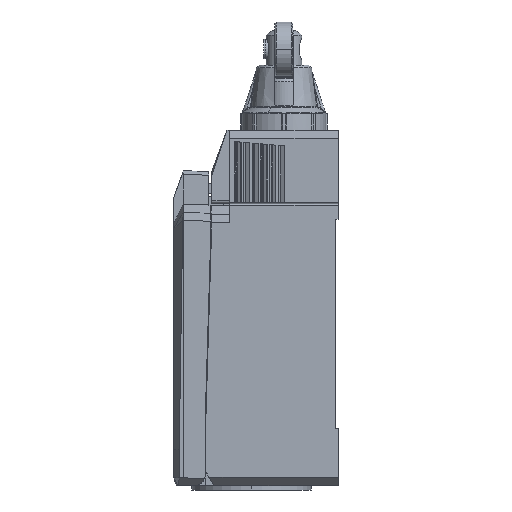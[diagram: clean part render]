
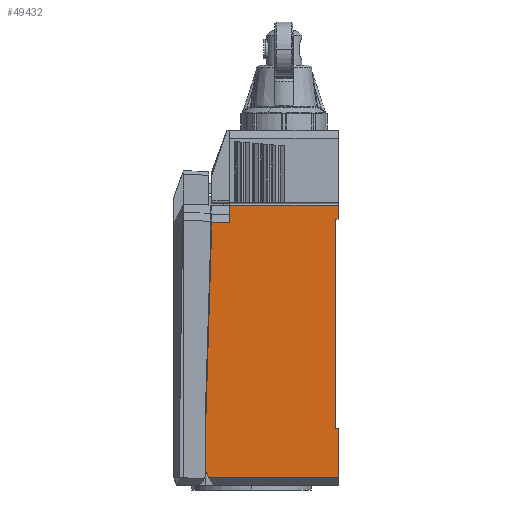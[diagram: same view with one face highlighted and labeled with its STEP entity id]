
A CAD part, left-side view. The second image highlights one B-rep face of the part: STEP entity #49432.
In plain terms, the highlighted planar face has unit normal (-1, 0, 0).
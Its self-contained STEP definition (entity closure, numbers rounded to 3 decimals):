
#11289=DIRECTION('',(0.,0.,-1.));
#11290=VECTOR('',#11289,2.6);
#11291=CARTESIAN_POINT('',(-15.25,-10.,-9.));
#11292=LINE('',#11291,#11290);
#13823=DIRECTION('',(0.,1.,0.));
#13824=VECTOR('',#13823,20.);
#13825=CARTESIAN_POINT('',(-15.25,-10.,-9.));
#13826=LINE('',#13825,#13824);
#13827=DIRECTION('',(0.,1.,0.));
#13828=VECTOR('',#13827,0.5);
#13829=CARTESIAN_POINT('',(-15.25,-10.,-11.6));
#13830=LINE('',#13829,#13828);
#13831=DIRECTION('',(0.,0.,-1.));
#13832=VECTOR('',#13831,38.6);
#13833=CARTESIAN_POINT('',(-15.25,-9.5,-11.6));
#13834=LINE('',#13833,#13832);
#13835=DIRECTION('',(0.,1.,0.));
#13836=VECTOR('',#13835,0.5);
#13837=CARTESIAN_POINT('',(-15.25,-10.,-50.2));
#13838=LINE('',#13837,#13836);
#13839=DIRECTION('',(0.,-1.,0.));
#13840=VECTOR('',#13839,23.815);
#13841=CARTESIAN_POINT('',(-15.25,13.815,-59.15));
#13842=LINE('',#13841,#13840);
#13843=DIRECTION('',(0.,0.5,0.866));
#13844=VECTOR('',#13843,1.169);
#13845=CARTESIAN_POINT('',(-15.25,13.815,-59.15));
#13846=LINE('',#13845,#13844);
#13847=DIRECTION('',(0.,-0.03,1.));
#13848=VECTOR('',#13847,33.015);
#13849=CARTESIAN_POINT('',(-15.25,14.4,-48.735));
#13850=LINE('',#13849,#13848);
#13851=DIRECTION('',(0.,0.,1.));
#13852=VECTOR('',#13851,3.485);
#13853=CARTESIAN_POINT('',(-15.25,13.4,-15.735));
#13854=LINE('',#13853,#13852);
#13855=DIRECTION('',(0.,-1.,0.));
#13856=VECTOR('',#13855,3.4);
#13857=CARTESIAN_POINT('',(-15.25,13.4,-12.25));
#13858=LINE('',#13857,#13856);
#13859=DIRECTION('',(0.,0.,-1.));
#13860=VECTOR('',#13859,3.25);
#13861=CARTESIAN_POINT('',(-15.25,10.,-9.));
#13862=LINE('',#13861,#13860);
#23074=DIRECTION('',(0.,0.,-1.));
#23075=VECTOR('',#23074,8.95);
#23076=CARTESIAN_POINT('',(-15.25,-10.,-50.2));
#23077=LINE('',#23076,#23075);
#25509=DIRECTION('',(0.,0.,-1.));
#25510=VECTOR('',#25509,9.402);
#25511=CARTESIAN_POINT('',(-15.25,14.4,-48.735));
#25512=LINE('',#25511,#25510);
#28415=CARTESIAN_POINT('',(-15.25,14.4,-58.137));
#28417=VERTEX_POINT('',#28415);
#28439=CARTESIAN_POINT('',(-15.25,14.4,-48.735));
#28440=VERTEX_POINT('',#28439);
#28458=CARTESIAN_POINT('',(-15.25,10.,-12.25));
#28460=VERTEX_POINT('',#28458);
#28475=CARTESIAN_POINT('',(-15.25,-10.,-11.6));
#28476=VERTEX_POINT('',#28475);
#28489=CARTESIAN_POINT('',(-15.25,-9.5,-11.6));
#28490=CARTESIAN_POINT('',(-15.25,-9.5,-50.2));
#28491=VERTEX_POINT('',#28489);
#28492=VERTEX_POINT('',#28490);
#28493=CARTESIAN_POINT('',(-15.25,-10.,-50.2));
#28494=VERTEX_POINT('',#28493);
#28511=CARTESIAN_POINT('',(-15.25,13.4,-12.25));
#28512=VERTEX_POINT('',#28511);
#28521=CARTESIAN_POINT('',(-15.25,13.4,-15.735));
#28522=VERTEX_POINT('',#28521);
#29951=CARTESIAN_POINT('',(-15.25,-10.,-59.15));
#29952=VERTEX_POINT('',#29951);
#29957=CARTESIAN_POINT('',(-15.25,13.815,-59.15));
#29958=VERTEX_POINT('',#29957);
#30685=CARTESIAN_POINT('',(-15.25,10.,-9.));
#30687=VERTEX_POINT('',#30685);
#30691=CARTESIAN_POINT('',(-15.25,-10.,-9.));
#30692=VERTEX_POINT('',#30691);
#49404=CARTESIAN_POINT('',(-15.25,16.7,2.));
#49405=DIRECTION('',(-1.,0.,0.));
#49406=DIRECTION('',(0.,-1.,0.));
#49407=AXIS2_PLACEMENT_3D('',#49404,#49405,#49406);
#49408=PLANE('',#49407);
#49410=ORIENTED_EDGE('',*,*,#49409,.F.);
#49411=ORIENTED_EDGE('',*,*,#46130,.T.);
#49412=ORIENTED_EDGE('',*,*,#46743,.T.);
#49414=ORIENTED_EDGE('',*,*,#49413,.T.);
#49416=ORIENTED_EDGE('',*,*,#49415,.F.);
#49418=ORIENTED_EDGE('',*,*,#49417,.T.);
#49419=ORIENTED_EDGE('',*,*,#49395,.F.);
#49420=ORIENTED_EDGE('',*,*,#49384,.T.);
#49422=ORIENTED_EDGE('',*,*,#49421,.F.);
#49424=ORIENTED_EDGE('',*,*,#49423,.T.);
#49425=ORIENTED_EDGE('',*,*,#49004,.T.);
#49427=ORIENTED_EDGE('',*,*,#49426,.T.);
#49429=ORIENTED_EDGE('',*,*,#49428,.F.);
#49430=EDGE_LOOP('',(#49410,#49411,#49412,#49414,#49416,#49418,#49419,#49420,
#49422,#49424,#49425,#49427,#49429));
#49431=FACE_OUTER_BOUND('',#49430,.F.);
#46130=EDGE_CURVE('',#30692,#28476,#11292,.T.);
#46743=EDGE_CURVE('',#28476,#28491,#13830,.T.);
#49004=EDGE_CURVE('',#28522,#28512,#13854,.T.);
#49384=EDGE_CURVE('',#29958,#28417,#13846,.T.);
#49395=EDGE_CURVE('',#29958,#29952,#13842,.T.);
#49409=EDGE_CURVE('',#30692,#30687,#13826,.T.);
#49413=EDGE_CURVE('',#28491,#28492,#13834,.T.);
#49415=EDGE_CURVE('',#28494,#28492,#13838,.T.);
#49417=EDGE_CURVE('',#28494,#29952,#23077,.T.);
#49421=EDGE_CURVE('',#28440,#28417,#25512,.T.);
#49423=EDGE_CURVE('',#28440,#28522,#13850,.T.);
#49426=EDGE_CURVE('',#28512,#28460,#13858,.T.);
#49428=EDGE_CURVE('',#30687,#28460,#13862,.T.);
#49432=ADVANCED_FACE('',(#49431),#49408,.T.);
